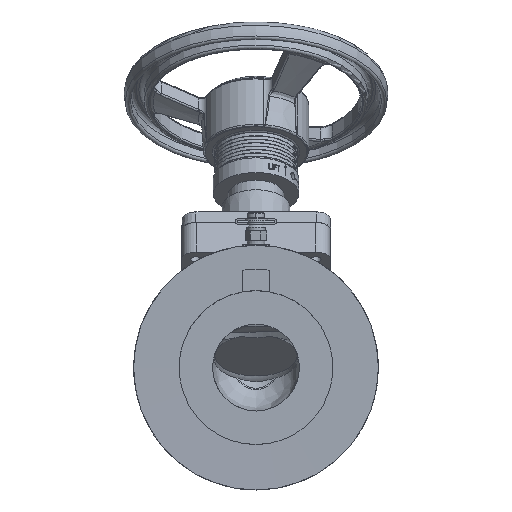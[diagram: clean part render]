
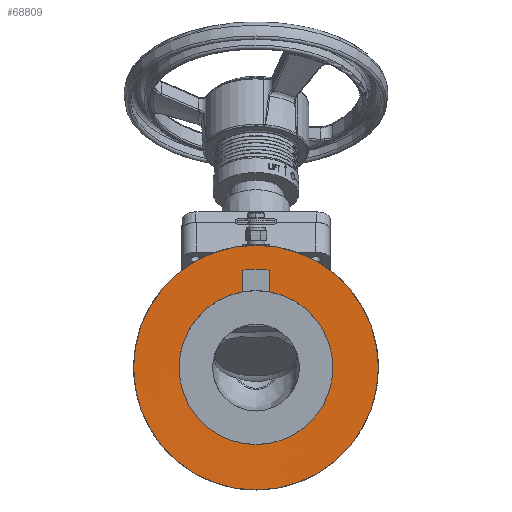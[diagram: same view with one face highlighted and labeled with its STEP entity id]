
A CAD part, left-side view. The second image highlights one B-rep face of the part: STEP entity #68809.
In plain terms, the highlighted conical face has half-angle 89.785 degrees and reference radius 75.736 mm.
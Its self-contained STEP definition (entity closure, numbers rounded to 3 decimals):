
#68665=CARTESIAN_POINT('',(-287.,-10.0,74.087));
#68666=VERTEX_POINT('',#68665);
#68673=CARTESIAN_POINT('',(-287.,10.,74.087));
#68674=VERTEX_POINT('',#68673);
#68675=CARTESIAN_POINT('',(-287.,0.0,0.0));
#68676=DIRECTION('',(1.0,0.0,0.0));
#68677=DIRECTION('',(0.0,-1.0,0.0));
#68678=AXIS2_PLACEMENT_3D('',#68675,#68676,#68677);
#68679=CIRCLE('',#68678,74.758);
#68680=EDGE_CURVE('',#68674,#68666,#68679,.T.);
#68708=CARTESIAN_POINT('',(-286.939,-10.0,57.605));
#68709=VERTEX_POINT('',#68708);
#68716=CARTESIAN_POINT('',(-287.,-10.0,74.087));
#68717=CARTESIAN_POINT('',(-286.966,-10.0,64.838));
#68718=CARTESIAN_POINT('',(-286.939,-10.0,57.605));
#68726=(BOUNDED_CURVE()B_SPLINE_CURVE(2,(#68716,#68717,#68718),.UNSPECIFIED.,.F.,.U.)B_SPLINE_CURVE_WITH_KNOTS((3,3),(0.25,0.589),.UNSPECIFIED.)CURVE()GEOMETRIC_REPRESENTATION_ITEM()RATIONAL_B_SPLINE_CURVE((1.222,1.37,1.512))REPRESENTATION_ITEM(''));
#68727=EDGE_CURVE('',#68666,#68709,#68726,.T.);
#68738=CARTESIAN_POINT('',(-286.939,10.,57.605));
#68739=VERTEX_POINT('',#68738);
#68747=CARTESIAN_POINT('',(-286.939,10.,57.605));
#68748=CARTESIAN_POINT('',(-286.966,10.,64.838));
#68749=CARTESIAN_POINT('',(-287.,10.,74.087));
#68757=(BOUNDED_CURVE()B_SPLINE_CURVE(2,(#68747,#68748,#68749),.UNSPECIFIED.,.F.,.U.)B_SPLINE_CURVE_WITH_KNOTS((3,3),(18.012,18.351),.UNSPECIFIED.)CURVE()GEOMETRIC_REPRESENTATION_ITEM()RATIONAL_B_SPLINE_CURVE((1.512,1.37,1.222))REPRESENTATION_ITEM(''));
#68758=EDGE_CURVE('',#68739,#68674,#68757,.T.);
#68781=CARTESIAN_POINT('',(-287.004,0.0,0.0));
#68782=DIRECTION('',(-1.0,0.0,0.0));
#68783=DIRECTION('',(0.0,-1.0,0.0));
#68784=AXIS2_PLACEMENT_3D('',#68781,#68782,#68783);
#68785=CONICAL_SURFACE('',#68784,75.736,89.785);
#68786=CARTESIAN_POINT('',(-287.069,-93.005,0.0));
#68787=VERTEX_POINT('',#68786);
#68788=CARTESIAN_POINT('',(-287.069,0.0,0.0));
#68789=DIRECTION('',(-1.0,0.0,0.0));
#68790=DIRECTION('',(0.0,-1.0,0.0));
#68791=AXIS2_PLACEMENT_3D('',#68788,#68789,#68790);
#68792=CIRCLE('',#68791,93.005);
#68793=EDGE_CURVE('',#68787,#68787,#68792,.T.);
#68794=ORIENTED_EDGE('',*,*,#68793,.T.);
#68795=EDGE_LOOP('',(#68794));
#68796=FACE_OUTER_BOUND('',#68795,.T.);
#68797=ORIENTED_EDGE('',*,*,#68758,.T.);
#68798=ORIENTED_EDGE('',*,*,#68680,.T.);
#68799=ORIENTED_EDGE('',*,*,#68727,.T.);
#68800=CARTESIAN_POINT('',(-286.939,0.0,0.0));
#68801=DIRECTION('',(-1.0,0.0,0.0));
#68802=DIRECTION('',(0.0,-1.0,0.0));
#68803=AXIS2_PLACEMENT_3D('',#68800,#68801,#68802);
#68804=CIRCLE('',#68803,58.467);
#68805=EDGE_CURVE('',#68739,#68709,#68804,.T.);
#68806=ORIENTED_EDGE('',*,*,#68805,.F.);
#68807=EDGE_LOOP('',(#68797,#68798,#68799,#68806));
#68808=FACE_BOUND('',#68807,.T.);
#68809=ADVANCED_FACE('',(#68796,#68808),#68785,.F.);
